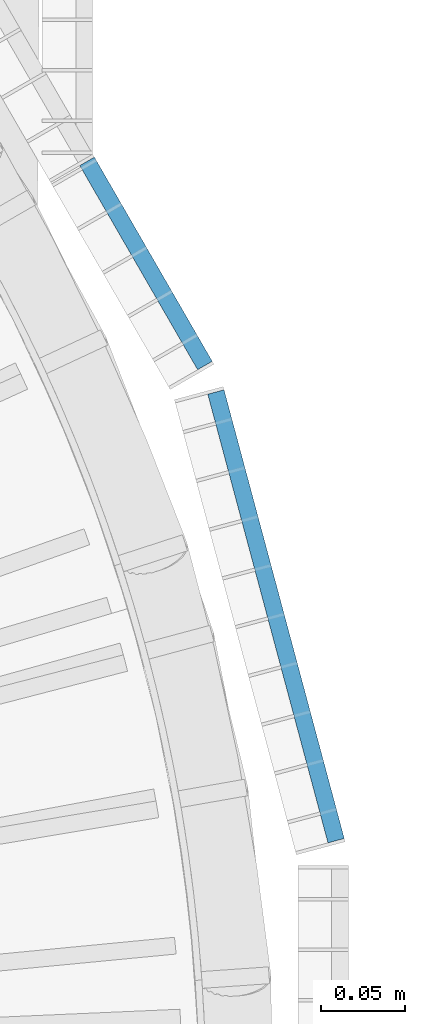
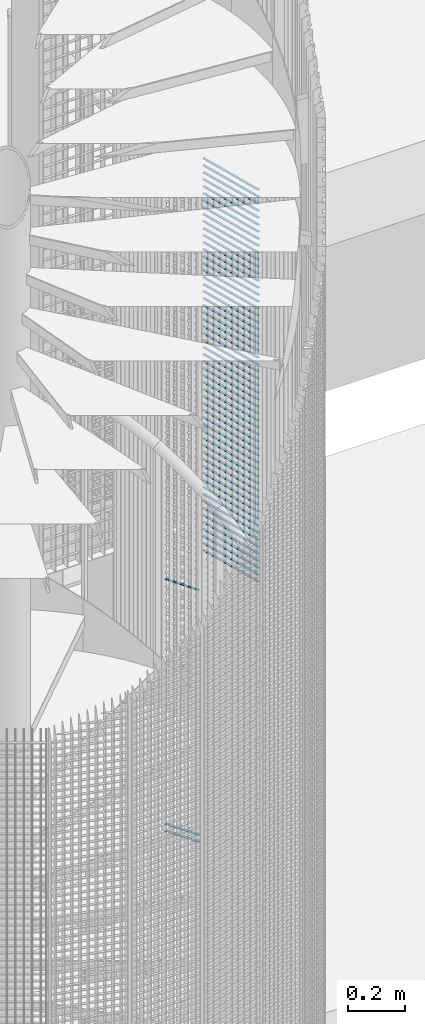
# One storey, part 276 of 1148: 60 beams, 2 elements without a shape of their own.
"""IFC2X3 building model written with IfcOpenShell, lengths in millimetres."""

from ifc_helpers import new_model, si_unit, frame, origin_with_axes, origin_2d_with_axis, place, context, subcontext, project, spatial, rectangle, extrude, material, type_object, element, aggregate, save


model = new_model("IFC2X3")

# Units and contexts
model_context = context("Model", 3, precision=1e-05, world=origin_with_axes())
body_context = subcontext(model_context, "Body", "Model", "MODEL_VIEW")
ifc_project = project(units=[si_unit("LENGTHUNIT", "METRE", prefix="MILLI"), si_unit("AREAUNIT", "SQUARE_METRE"), si_unit("VOLUMEUNIT", "CUBIC_METRE"), si_unit("MASSUNIT", "GRAM", prefix="KILO"), si_unit("TIMEUNIT", "SECOND"), si_unit("PLANEANGLEUNIT", "RADIAN"), si_unit("SOLIDANGLEUNIT", "STERADIAN"), si_unit("THERMODYNAMICTEMPERATUREUNIT", "DEGREE_CELSIUS"), si_unit("LUMINOUSINTENSITYUNIT", "LUMEN")], contexts=[model_context])

# Site, building, storey
site_placement = place(None, origin_with_axes())
site = spatial("IfcSite", under=ifc_project, at=site_placement, Name="Undefined", CompositionType="ELEMENT")
building_placement = place(site_placement, origin_with_axes())
building = spatial("IfcBuilding", under=site, at=building_placement, Name="Undefined", CompositionType="ELEMENT")
storey_placement = place(building_placement, origin_with_axes())
storey = spatial("IfcBuildingStorey", under=building, at=storey_placement, Name="Undefined", CompositionType="ELEMENT", Elevation=0.0)

# Assembly, beams
assembly_1_placement = place(storey_placement, origin_with_axes())
assembly_1 = element("IfcElementAssembly", 1, at=assembly_1_placement, inside=storey, Name="BORDURE", AssemblyPlace="NOTDEFINED", PredefinedType="NOTDEFINED")
ifc_material = material(Name="STEEL/S235JR")
beam_type = type_object("IfcBeamType", Name="PL2*10", PredefinedType="NOTDEFINED")
beam_1_placement = place(assembly_1_placement, frame((1033.2999428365, 437.231999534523, 9060.0), z_axis=(0.866030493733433, 0.499991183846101, 0.0), x_axis=(-0.499991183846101, 0.866030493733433, 0.0)))
beam_1 = element("IfcBeam", 2, at=beam_1_placement, type_object=beam_type, material=ifc_material, Name="ENTRETOISE", context=body_context, shape_type="SweptSolid", body=[
    extrude(rectangle(XDim=2.0, YDim=10.0, at=origin_2d_with_axis()), frame((140.102470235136, 0.0, 0.0), z_axis=(-1.0, 0.0, 0.0), x_axis=(0.0, -1.0, 0.0)), (0.0, 0.0, 1.0), 140.1),
])
beam_2_placement = place(assembly_1_placement, frame((1033.29994283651, 437.23199953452, 10110.0), z_axis=(0.866030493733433, 0.499991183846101, 0.0), x_axis=(-0.499991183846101, 0.866030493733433, 0.0)))
beam_2 = element("IfcBeam", 3, at=beam_2_placement, type_object=beam_type, material=ifc_material, Name="ENTRETOISE", context=body_context, shape_type="SweptSolid", body=[
    extrude(rectangle(XDim=2.0, YDim=10.0, at=origin_2d_with_axis()), frame((140.102470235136, 0.0, 0.0), z_axis=(-1.0, 0.0, 0.0), x_axis=(0.0, -1.0, 0.0)), (0.0, 0.0, 1.0), 140.1),
])
beam_3_placement = place(assembly_1_placement, frame((1033.2999428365, 437.231999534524, 9030.0), z_axis=(0.866030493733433, 0.499991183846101, 0.0), x_axis=(-0.499991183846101, 0.866030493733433, 0.0)))
beam_3 = element("IfcBeam", 4, at=beam_3_placement, type_object=beam_type, material=ifc_material, Name="ENTRETOISE", context=body_context, shape_type="SweptSolid", body=[
    extrude(rectangle(XDim=2.0, YDim=10.0, at=origin_2d_with_axis()), frame((140.102470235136, 0.0, 0.0), z_axis=(-1.0, 0.0, 0.0), x_axis=(0.0, -1.0, 0.0)), (0.0, 0.0, 1.0), 140.1),
])
aggregate(assembly_1, [beam_1, beam_2, beam_3])

assembly_2_placement = place(storey_placement, origin_with_axes())
assembly_2 = element("IfcElementAssembly", 5, at=assembly_2_placement, inside=storey, Name="BORDURE", AssemblyPlace="NOTDEFINED", PredefinedType="NOTDEFINED")
beam_4_placement = place(assembly_2_placement, frame((1111.25508286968, 154.895926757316, 11970.0), z_axis=(0.965925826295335, 0.258819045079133, 0.0), x_axis=(-0.258819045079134, 0.965925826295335, 0.0)))
beam_4 = element("IfcBeam", 6, at=beam_4_placement, type_object=beam_type, material=ifc_material, Name="ENTRETOISE", context=body_context, shape_type="SweptSolid", body=[
    extrude(rectangle(XDim=2.0, YDim=10.0, at=origin_2d_with_axis()), frame((275.999999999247, 9.09494701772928e-13, 1.53210777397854e-14), z_axis=(-1.0, 0.0, 0.0), x_axis=(0.0, -1.0, 0.0)), (0.0, 0.0, 1.0), 276.0),
])
beam_5_placement = place(assembly_2_placement, frame((1111.25508286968, 154.895926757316, 11940.0), z_axis=(0.965925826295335, 0.258819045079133, 0.0), x_axis=(-0.258819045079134, 0.965925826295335, 0.0)))
beam_5 = element("IfcBeam", 7, at=beam_5_placement, type_object=beam_type, material=ifc_material, Name="ENTRETOISE", context=body_context, shape_type="SweptSolid", body=[
    extrude(rectangle(XDim=2.0, YDim=10.0, at=origin_2d_with_axis()), frame((275.999999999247, 9.09494701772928e-13, 1.53210777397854e-14), z_axis=(-1.0, 0.0, 0.0), x_axis=(0.0, -1.0, 0.0)), (0.0, 0.0, 1.0), 276.0),
])
beam_6_placement = place(assembly_2_placement, frame((1111.25508286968, 154.895926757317, 11910.0), z_axis=(0.965925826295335, 0.258819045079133, 0.0), x_axis=(-0.258819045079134, 0.965925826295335, 0.0)))
beam_6 = element("IfcBeam", 8, at=beam_6_placement, type_object=beam_type, material=ifc_material, Name="ENTRETOISE", context=body_context, shape_type="SweptSolid", body=[
    extrude(rectangle(XDim=2.0, YDim=10.0, at=origin_2d_with_axis()), frame((275.999999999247, 9.09494701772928e-13, 1.53210777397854e-14), z_axis=(-1.0, 0.0, 0.0), x_axis=(0.0, -1.0, 0.0)), (0.0, 0.0, 1.0), 276.0),
])
beam_7_placement = place(assembly_2_placement, frame((1111.25508286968, 154.895926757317, 11880.0), z_axis=(0.965925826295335, 0.258819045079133, 0.0), x_axis=(-0.258819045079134, 0.965925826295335, 0.0)))
beam_7 = element("IfcBeam", 9, at=beam_7_placement, type_object=beam_type, material=ifc_material, Name="ENTRETOISE", context=body_context, shape_type="SweptSolid", body=[
    extrude(rectangle(XDim=2.0, YDim=10.0, at=origin_2d_with_axis()), frame((275.999999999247, 9.09494701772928e-13, 1.53210777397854e-14), z_axis=(-1.0, 0.0, 0.0), x_axis=(0.0, -1.0, 0.0)), (0.0, 0.0, 1.0), 276.0),
])
beam_8_placement = place(assembly_2_placement, frame((1111.25508286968, 154.895926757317, 11850.0), z_axis=(0.965925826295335, 0.258819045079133, 0.0), x_axis=(-0.258819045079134, 0.965925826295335, 0.0)))
beam_8 = element("IfcBeam", 10, at=beam_8_placement, type_object=beam_type, material=ifc_material, Name="ENTRETOISE", context=body_context, shape_type="SweptSolid", body=[
    extrude(rectangle(XDim=2.0, YDim=10.0, at=origin_2d_with_axis()), frame((275.999999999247, 9.09494701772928e-13, 1.53210777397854e-14), z_axis=(-1.0, 0.0, 0.0), x_axis=(0.0, -1.0, 0.0)), (0.0, 0.0, 1.0), 276.0),
])
beam_9_placement = place(assembly_2_placement, frame((1111.25508286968, 154.895926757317, 11820.0), z_axis=(0.965925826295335, 0.258819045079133, 0.0), x_axis=(-0.258819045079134, 0.965925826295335, 0.0)))
beam_9 = element("IfcBeam", 11, at=beam_9_placement, type_object=beam_type, material=ifc_material, Name="ENTRETOISE", context=body_context, shape_type="SweptSolid", body=[
    extrude(rectangle(XDim=2.0, YDim=10.0, at=origin_2d_with_axis()), frame((275.999999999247, 9.09494701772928e-13, 1.53210777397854e-14), z_axis=(-1.0, 0.0, 0.0), x_axis=(0.0, -1.0, 0.0)), (0.0, 0.0, 1.0), 276.0),
])
beam_10_placement = place(assembly_2_placement, frame((1111.25508286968, 154.895926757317, 11790.0), z_axis=(0.965925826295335, 0.258819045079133, 0.0), x_axis=(-0.258819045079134, 0.965925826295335, 0.0)))
beam_10 = element("IfcBeam", 12, at=beam_10_placement, type_object=beam_type, material=ifc_material, Name="ENTRETOISE", context=body_context, shape_type="SweptSolid", body=[
    extrude(rectangle(XDim=2.0, YDim=10.0, at=origin_2d_with_axis()), frame((275.999999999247, 9.09494701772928e-13, 1.53210777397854e-14), z_axis=(-1.0, 0.0, 0.0), x_axis=(0.0, -1.0, 0.0)), (0.0, 0.0, 1.0), 276.0),
])
beam_11_placement = place(assembly_2_placement, frame((1111.25508286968, 154.895926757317, 11760.0), z_axis=(0.965925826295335, 0.258819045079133, 0.0), x_axis=(-0.258819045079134, 0.965925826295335, 0.0)))
beam_11 = element("IfcBeam", 13, at=beam_11_placement, type_object=beam_type, material=ifc_material, Name="ENTRETOISE", context=body_context, shape_type="SweptSolid", body=[
    extrude(rectangle(XDim=2.0, YDim=10.0, at=origin_2d_with_axis()), frame((275.999999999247, 9.09494701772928e-13, 1.53210777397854e-14), z_axis=(-1.0, 0.0, 0.0), x_axis=(0.0, -1.0, 0.0)), (0.0, 0.0, 1.0), 276.0),
])
beam_12_placement = place(assembly_2_placement, frame((1111.25508286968, 154.895926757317, 11730.0), z_axis=(0.965925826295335, 0.258819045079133, 0.0), x_axis=(-0.258819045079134, 0.965925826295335, 0.0)))
beam_12 = element("IfcBeam", 14, at=beam_12_placement, type_object=beam_type, material=ifc_material, Name="ENTRETOISE", context=body_context, shape_type="SweptSolid", body=[
    extrude(rectangle(XDim=2.0, YDim=10.0, at=origin_2d_with_axis()), frame((275.999999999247, 9.09494701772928e-13, 1.53210777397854e-14), z_axis=(-1.0, 0.0, 0.0), x_axis=(0.0, -1.0, 0.0)), (0.0, 0.0, 1.0), 276.0),
])
beam_13_placement = place(assembly_2_placement, frame((1111.25508286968, 154.895926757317, 11700.0), z_axis=(0.965925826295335, 0.258819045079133, 0.0), x_axis=(-0.258819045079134, 0.965925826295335, 0.0)))
beam_13 = element("IfcBeam", 15, at=beam_13_placement, type_object=beam_type, material=ifc_material, Name="ENTRETOISE", context=body_context, shape_type="SweptSolid", body=[
    extrude(rectangle(XDim=2.0, YDim=10.0, at=origin_2d_with_axis()), frame((275.999999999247, 9.09494701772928e-13, 1.53210777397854e-14), z_axis=(-1.0, 0.0, 0.0), x_axis=(0.0, -1.0, 0.0)), (0.0, 0.0, 1.0), 276.0),
])
beam_14_placement = place(assembly_2_placement, frame((1111.25508286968, 154.895926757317, 11670.0), z_axis=(0.965925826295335, 0.258819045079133, 0.0), x_axis=(-0.258819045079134, 0.965925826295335, 0.0)))
beam_14 = element("IfcBeam", 16, at=beam_14_placement, type_object=beam_type, material=ifc_material, Name="ENTRETOISE", context=body_context, shape_type="SweptSolid", body=[
    extrude(rectangle(XDim=2.0, YDim=10.0, at=origin_2d_with_axis()), frame((275.999999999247, 9.09494701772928e-13, 1.53210777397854e-14), z_axis=(-1.0, 0.0, 0.0), x_axis=(0.0, -1.0, 0.0)), (0.0, 0.0, 1.0), 276.0),
])
beam_15_placement = place(assembly_2_placement, frame((1111.25508286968, 154.895926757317, 11640.0), z_axis=(0.965925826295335, 0.258819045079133, 0.0), x_axis=(-0.258819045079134, 0.965925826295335, 0.0)))
beam_15 = element("IfcBeam", 17, at=beam_15_placement, type_object=beam_type, material=ifc_material, Name="ENTRETOISE", context=body_context, shape_type="SweptSolid", body=[
    extrude(rectangle(XDim=2.0, YDim=10.0, at=origin_2d_with_axis()), frame((275.999999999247, 9.09494701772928e-13, 1.53210777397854e-14), z_axis=(-1.0, 0.0, 0.0), x_axis=(0.0, -1.0, 0.0)), (0.0, 0.0, 1.0), 276.0),
])
beam_16_placement = place(assembly_2_placement, frame((1111.25508286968, 154.895926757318, 11610.0), z_axis=(0.965925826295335, 0.258819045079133, 0.0), x_axis=(-0.258819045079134, 0.965925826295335, 0.0)))
beam_16 = element("IfcBeam", 18, at=beam_16_placement, type_object=beam_type, material=ifc_material, Name="ENTRETOISE", context=body_context, shape_type="SweptSolid", body=[
    extrude(rectangle(XDim=2.0, YDim=10.0, at=origin_2d_with_axis()), frame((275.999999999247, 9.09494701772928e-13, 1.53210777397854e-14), z_axis=(-1.0, 0.0, 0.0), x_axis=(0.0, -1.0, 0.0)), (0.0, 0.0, 1.0), 276.0),
])
beam_17_placement = place(assembly_2_placement, frame((1111.25508286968, 154.895926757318, 11580.0), z_axis=(0.965925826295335, 0.258819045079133, 0.0), x_axis=(-0.258819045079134, 0.965925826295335, 0.0)))
beam_17 = element("IfcBeam", 19, at=beam_17_placement, type_object=beam_type, material=ifc_material, Name="ENTRETOISE", context=body_context, shape_type="SweptSolid", body=[
    extrude(rectangle(XDim=2.0, YDim=10.0, at=origin_2d_with_axis()), frame((275.999999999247, 9.09494701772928e-13, 1.53210777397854e-14), z_axis=(-1.0, 0.0, 0.0), x_axis=(0.0, -1.0, 0.0)), (0.0, 0.0, 1.0), 276.0),
])
beam_18_placement = place(assembly_2_placement, frame((1111.25508286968, 154.895926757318, 11550.0), z_axis=(0.965925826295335, 0.258819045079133, 0.0), x_axis=(-0.258819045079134, 0.965925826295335, 0.0)))
beam_18 = element("IfcBeam", 20, at=beam_18_placement, type_object=beam_type, material=ifc_material, Name="ENTRETOISE", context=body_context, shape_type="SweptSolid", body=[
    extrude(rectangle(XDim=2.0, YDim=10.0, at=origin_2d_with_axis()), frame((275.999999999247, 9.09494701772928e-13, 1.53210777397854e-14), z_axis=(-1.0, 0.0, 0.0), x_axis=(0.0, -1.0, 0.0)), (0.0, 0.0, 1.0), 276.0),
])
beam_19_placement = place(assembly_2_placement, frame((1111.25508286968, 154.895926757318, 11520.0), z_axis=(0.965925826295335, 0.258819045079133, 0.0), x_axis=(-0.258819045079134, 0.965925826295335, 0.0)))
beam_19 = element("IfcBeam", 21, at=beam_19_placement, type_object=beam_type, material=ifc_material, Name="ENTRETOISE", context=body_context, shape_type="SweptSolid", body=[
    extrude(rectangle(XDim=2.0, YDim=10.0, at=origin_2d_with_axis()), frame((275.999999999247, 9.09494701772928e-13, 1.53210777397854e-14), z_axis=(-1.0, 0.0, 0.0), x_axis=(0.0, -1.0, 0.0)), (0.0, 0.0, 1.0), 276.0),
])
beam_20_placement = place(assembly_2_placement, frame((1111.25508286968, 154.895926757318, 11490.0), z_axis=(0.965925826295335, 0.258819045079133, 0.0), x_axis=(-0.258819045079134, 0.965925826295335, 0.0)))
beam_20 = element("IfcBeam", 22, at=beam_20_placement, type_object=beam_type, material=ifc_material, Name="ENTRETOISE", context=body_context, shape_type="SweptSolid", body=[
    extrude(rectangle(XDim=2.0, YDim=10.0, at=origin_2d_with_axis()), frame((275.999999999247, 9.09494701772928e-13, 1.53210777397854e-14), z_axis=(-1.0, 0.0, 0.0), x_axis=(0.0, -1.0, 0.0)), (0.0, 0.0, 1.0), 276.0),
])
beam_21_placement = place(assembly_2_placement, frame((1111.25508286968, 154.895926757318, 11460.0), z_axis=(0.965925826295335, 0.258819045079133, 0.0), x_axis=(-0.258819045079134, 0.965925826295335, 0.0)))
beam_21 = element("IfcBeam", 23, at=beam_21_placement, type_object=beam_type, material=ifc_material, Name="ENTRETOISE", context=body_context, shape_type="SweptSolid", body=[
    extrude(rectangle(XDim=2.0, YDim=10.0, at=origin_2d_with_axis()), frame((275.999999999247, 9.09494701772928e-13, 1.53210777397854e-14), z_axis=(-1.0, 0.0, 0.0), x_axis=(0.0, -1.0, 0.0)), (0.0, 0.0, 1.0), 276.0),
])
beam_22_placement = place(assembly_2_placement, frame((1111.25508286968, 154.895926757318, 11430.0), z_axis=(0.965925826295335, 0.258819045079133, 0.0), x_axis=(-0.258819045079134, 0.965925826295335, 0.0)))
beam_22 = element("IfcBeam", 24, at=beam_22_placement, type_object=beam_type, material=ifc_material, Name="ENTRETOISE", context=body_context, shape_type="SweptSolid", body=[
    extrude(rectangle(XDim=2.0, YDim=10.0, at=origin_2d_with_axis()), frame((275.999999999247, 9.09494701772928e-13, 1.53210777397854e-14), z_axis=(-1.0, 0.0, 0.0), x_axis=(0.0, -1.0, 0.0)), (0.0, 0.0, 1.0), 276.0),
])
beam_23_placement = place(assembly_2_placement, frame((1111.25508286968, 154.895926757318, 11400.0), z_axis=(0.965925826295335, 0.258819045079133, 0.0), x_axis=(-0.258819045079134, 0.965925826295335, 0.0)))
beam_23 = element("IfcBeam", 25, at=beam_23_placement, type_object=beam_type, material=ifc_material, Name="ENTRETOISE", context=body_context, shape_type="SweptSolid", body=[
    extrude(rectangle(XDim=2.0, YDim=10.0, at=origin_2d_with_axis()), frame((275.999999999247, 9.09494701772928e-13, 1.53210777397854e-14), z_axis=(-1.0, 0.0, 0.0), x_axis=(0.0, -1.0, 0.0)), (0.0, 0.0, 1.0), 276.0),
])
beam_24_placement = place(assembly_2_placement, frame((1111.25508286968, 154.895926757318, 11370.0), z_axis=(0.965925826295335, 0.258819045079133, 0.0), x_axis=(-0.258819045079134, 0.965925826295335, 0.0)))
beam_24 = element("IfcBeam", 26, at=beam_24_placement, type_object=beam_type, material=ifc_material, Name="ENTRETOISE", context=body_context, shape_type="SweptSolid", body=[
    extrude(rectangle(XDim=2.0, YDim=10.0, at=origin_2d_with_axis()), frame((275.999999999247, 9.09494701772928e-13, 1.53210777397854e-14), z_axis=(-1.0, 0.0, 0.0), x_axis=(0.0, -1.0, 0.0)), (0.0, 0.0, 1.0), 276.0),
])
beam_25_placement = place(assembly_2_placement, frame((1111.25508286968, 154.895926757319, 11340.0), z_axis=(0.965925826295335, 0.258819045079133, 0.0), x_axis=(-0.258819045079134, 0.965925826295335, 0.0)))
beam_25 = element("IfcBeam", 27, at=beam_25_placement, type_object=beam_type, material=ifc_material, Name="ENTRETOISE", context=body_context, shape_type="SweptSolid", body=[
    extrude(rectangle(XDim=2.0, YDim=10.0, at=origin_2d_with_axis()), frame((275.999999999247, 9.09494701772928e-13, 1.53210777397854e-14), z_axis=(-1.0, 0.0, 0.0), x_axis=(0.0, -1.0, 0.0)), (0.0, 0.0, 1.0), 276.0),
])
beam_26_placement = place(assembly_2_placement, frame((1111.25508286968, 154.895926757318, 11310.0), z_axis=(0.965925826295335, 0.258819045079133, 0.0), x_axis=(-0.258819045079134, 0.965925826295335, 0.0)))
beam_26 = element("IfcBeam", 28, at=beam_26_placement, type_object=beam_type, material=ifc_material, Name="ENTRETOISE", context=body_context, shape_type="SweptSolid", body=[
    extrude(rectangle(XDim=2.0, YDim=10.0, at=origin_2d_with_axis()), frame((275.999999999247, 9.09494701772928e-13, 1.53210777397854e-14), z_axis=(-1.0, 0.0, 0.0), x_axis=(0.0, -1.0, 0.0)), (0.0, 0.0, 1.0), 276.0),
])
beam_27_placement = place(assembly_2_placement, frame((1111.25508286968, 154.895926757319, 11280.0), z_axis=(0.965925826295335, 0.258819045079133, 0.0), x_axis=(-0.258819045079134, 0.965925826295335, 0.0)))
beam_27 = element("IfcBeam", 29, at=beam_27_placement, type_object=beam_type, material=ifc_material, Name="ENTRETOISE", context=body_context, shape_type="SweptSolid", body=[
    extrude(rectangle(XDim=2.0, YDim=10.0, at=origin_2d_with_axis()), frame((275.999999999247, 9.09494701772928e-13, 1.53210777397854e-14), z_axis=(-1.0, 0.0, 0.0), x_axis=(0.0, -1.0, 0.0)), (0.0, 0.0, 1.0), 276.0),
])
beam_28_placement = place(assembly_2_placement, frame((1111.25508286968, 154.895926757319, 11250.0), z_axis=(0.965925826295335, 0.258819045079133, 0.0), x_axis=(-0.258819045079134, 0.965925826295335, 0.0)))
beam_28 = element("IfcBeam", 30, at=beam_28_placement, type_object=beam_type, material=ifc_material, Name="ENTRETOISE", context=body_context, shape_type="SweptSolid", body=[
    extrude(rectangle(XDim=2.0, YDim=10.0, at=origin_2d_with_axis()), frame((275.999999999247, 9.09494701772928e-13, 1.53210777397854e-14), z_axis=(-1.0, 0.0, 0.0), x_axis=(0.0, -1.0, 0.0)), (0.0, 0.0, 1.0), 276.0),
])
beam_29_placement = place(assembly_2_placement, frame((1111.25508286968, 154.895926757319, 11220.0), z_axis=(0.965925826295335, 0.258819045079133, 0.0), x_axis=(-0.258819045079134, 0.965925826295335, 0.0)))
beam_29 = element("IfcBeam", 31, at=beam_29_placement, type_object=beam_type, material=ifc_material, Name="ENTRETOISE", context=body_context, shape_type="SweptSolid", body=[
    extrude(rectangle(XDim=2.0, YDim=10.0, at=origin_2d_with_axis()), frame((275.999999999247, 9.09494701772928e-13, 1.53210777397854e-14), z_axis=(-1.0, 0.0, 0.0), x_axis=(0.0, -1.0, 0.0)), (0.0, 0.0, 1.0), 276.0),
])
beam_30_placement = place(assembly_2_placement, frame((1111.25508286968, 154.895926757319, 11190.0), z_axis=(0.965925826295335, 0.258819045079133, 0.0), x_axis=(-0.258819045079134, 0.965925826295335, 0.0)))
beam_30 = element("IfcBeam", 32, at=beam_30_placement, type_object=beam_type, material=ifc_material, Name="ENTRETOISE", context=body_context, shape_type="SweptSolid", body=[
    extrude(rectangle(XDim=2.0, YDim=10.0, at=origin_2d_with_axis()), frame((275.999999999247, 9.09494701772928e-13, 1.53210777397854e-14), z_axis=(-1.0, 0.0, 0.0), x_axis=(0.0, -1.0, 0.0)), (0.0, 0.0, 1.0), 276.0),
])
beam_31_placement = place(assembly_2_placement, frame((1111.25508286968, 154.895926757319, 11160.0), z_axis=(0.965925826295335, 0.258819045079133, 0.0), x_axis=(-0.258819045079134, 0.965925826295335, 0.0)))
beam_31 = element("IfcBeam", 33, at=beam_31_placement, type_object=beam_type, material=ifc_material, Name="ENTRETOISE", context=body_context, shape_type="SweptSolid", body=[
    extrude(rectangle(XDim=2.0, YDim=10.0, at=origin_2d_with_axis()), frame((275.999999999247, 9.09494701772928e-13, 1.53210777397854e-14), z_axis=(-1.0, 0.0, 0.0), x_axis=(0.0, -1.0, 0.0)), (0.0, 0.0, 1.0), 276.0),
])
beam_32_placement = place(assembly_2_placement, frame((1111.25508286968, 154.895926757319, 11130.0), z_axis=(0.965925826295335, 0.258819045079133, 0.0), x_axis=(-0.258819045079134, 0.965925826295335, 0.0)))
beam_32 = element("IfcBeam", 34, at=beam_32_placement, type_object=beam_type, material=ifc_material, Name="ENTRETOISE", context=body_context, shape_type="SweptSolid", body=[
    extrude(rectangle(XDim=2.0, YDim=10.0, at=origin_2d_with_axis()), frame((275.999999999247, 9.09494701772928e-13, 1.53210777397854e-14), z_axis=(-1.0, 0.0, 0.0), x_axis=(0.0, -1.0, 0.0)), (0.0, 0.0, 1.0), 276.0),
])
beam_33_placement = place(assembly_2_placement, frame((1111.25508286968, 154.895926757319, 11100.0), z_axis=(0.965925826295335, 0.258819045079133, 0.0), x_axis=(-0.258819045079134, 0.965925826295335, 0.0)))
beam_33 = element("IfcBeam", 35, at=beam_33_placement, type_object=beam_type, material=ifc_material, Name="ENTRETOISE", context=body_context, shape_type="SweptSolid", body=[
    extrude(rectangle(XDim=2.0, YDim=10.0, at=origin_2d_with_axis()), frame((275.999999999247, 9.09494701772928e-13, 1.53210777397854e-14), z_axis=(-1.0, 0.0, 0.0), x_axis=(0.0, -1.0, 0.0)), (0.0, 0.0, 1.0), 276.0),
])
beam_34_placement = place(assembly_2_placement, frame((1111.25508286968, 154.895926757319, 11070.0), z_axis=(0.965925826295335, 0.258819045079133, 0.0), x_axis=(-0.258819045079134, 0.965925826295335, 0.0)))
beam_34 = element("IfcBeam", 36, at=beam_34_placement, type_object=beam_type, material=ifc_material, Name="ENTRETOISE", context=body_context, shape_type="SweptSolid", body=[
    extrude(rectangle(XDim=2.0, YDim=10.0, at=origin_2d_with_axis()), frame((275.999999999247, 9.09494701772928e-13, 1.53210777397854e-14), z_axis=(-1.0, 0.0, 0.0), x_axis=(0.0, -1.0, 0.0)), (0.0, 0.0, 1.0), 276.0),
])
beam_35_placement = place(assembly_2_placement, frame((1111.25508286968, 154.89592675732, 11040.0), z_axis=(0.965925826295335, 0.258819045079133, 0.0), x_axis=(-0.258819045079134, 0.965925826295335, 0.0)))
beam_35 = element("IfcBeam", 37, at=beam_35_placement, type_object=beam_type, material=ifc_material, Name="ENTRETOISE", context=body_context, shape_type="SweptSolid", body=[
    extrude(rectangle(XDim=2.0, YDim=10.0, at=origin_2d_with_axis()), frame((275.999999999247, 9.09494701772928e-13, 1.53210777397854e-14), z_axis=(-1.0, 0.0, 0.0), x_axis=(0.0, -1.0, 0.0)), (0.0, 0.0, 1.0), 276.0),
])
beam_36_placement = place(assembly_2_placement, frame((1111.25508286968, 154.89592675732, 11010.0), z_axis=(0.965925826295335, 0.258819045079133, 0.0), x_axis=(-0.258819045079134, 0.965925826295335, 0.0)))
beam_36 = element("IfcBeam", 38, at=beam_36_placement, type_object=beam_type, material=ifc_material, Name="ENTRETOISE", context=body_context, shape_type="SweptSolid", body=[
    extrude(rectangle(XDim=2.0, YDim=10.0, at=origin_2d_with_axis()), frame((275.999999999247, 9.09494701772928e-13, 1.53210777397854e-14), z_axis=(-1.0, 0.0, 0.0), x_axis=(0.0, -1.0, 0.0)), (0.0, 0.0, 1.0), 276.0),
])
beam_37_placement = place(assembly_2_placement, frame((1111.25508286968, 154.89592675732, 10980.0), z_axis=(0.965925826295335, 0.258819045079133, 0.0), x_axis=(-0.258819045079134, 0.965925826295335, 0.0)))
beam_37 = element("IfcBeam", 39, at=beam_37_placement, type_object=beam_type, material=ifc_material, Name="ENTRETOISE", context=body_context, shape_type="SweptSolid", body=[
    extrude(rectangle(XDim=2.0, YDim=10.0, at=origin_2d_with_axis()), frame((275.999999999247, 9.09494701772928e-13, 1.53210777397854e-14), z_axis=(-1.0, 0.0, 0.0), x_axis=(0.0, -1.0, 0.0)), (0.0, 0.0, 1.0), 276.0),
])
beam_38_placement = place(assembly_2_placement, frame((1111.25508286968, 154.89592675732, 10950.0), z_axis=(0.965925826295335, 0.258819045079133, 0.0), x_axis=(-0.258819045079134, 0.965925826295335, 0.0)))
beam_38 = element("IfcBeam", 40, at=beam_38_placement, type_object=beam_type, material=ifc_material, Name="ENTRETOISE", context=body_context, shape_type="SweptSolid", body=[
    extrude(rectangle(XDim=2.0, YDim=10.0, at=origin_2d_with_axis()), frame((275.999999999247, 9.09494701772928e-13, 1.53210777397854e-14), z_axis=(-1.0, 0.0, 0.0), x_axis=(0.0, -1.0, 0.0)), (0.0, 0.0, 1.0), 276.0),
])
beam_39_placement = place(assembly_2_placement, frame((1111.25508286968, 154.89592675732, 10920.0), z_axis=(0.965925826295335, 0.258819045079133, 0.0), x_axis=(-0.258819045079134, 0.965925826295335, 0.0)))
beam_39 = element("IfcBeam", 41, at=beam_39_placement, type_object=beam_type, material=ifc_material, Name="ENTRETOISE", context=body_context, shape_type="SweptSolid", body=[
    extrude(rectangle(XDim=2.0, YDim=10.0, at=origin_2d_with_axis()), frame((275.999999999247, 9.09494701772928e-13, 1.53210777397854e-14), z_axis=(-1.0, 0.0, 0.0), x_axis=(0.0, -1.0, 0.0)), (0.0, 0.0, 1.0), 276.0),
])
beam_40_placement = place(assembly_2_placement, frame((1111.25508286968, 154.89592675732, 10890.0), z_axis=(0.965925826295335, 0.258819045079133, 0.0), x_axis=(-0.258819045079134, 0.965925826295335, 0.0)))
beam_40 = element("IfcBeam", 42, at=beam_40_placement, type_object=beam_type, material=ifc_material, Name="ENTRETOISE", context=body_context, shape_type="SweptSolid", body=[
    extrude(rectangle(XDim=2.0, YDim=10.0, at=origin_2d_with_axis()), frame((275.999999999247, 9.09494701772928e-13, 1.53210777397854e-14), z_axis=(-1.0, 0.0, 0.0), x_axis=(0.0, -1.0, 0.0)), (0.0, 0.0, 1.0), 276.0),
])
beam_41_placement = place(assembly_2_placement, frame((1111.25508286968, 154.89592675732, 10860.0), z_axis=(0.965925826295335, 0.258819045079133, 0.0), x_axis=(-0.258819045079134, 0.965925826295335, 0.0)))
beam_41 = element("IfcBeam", 43, at=beam_41_placement, type_object=beam_type, material=ifc_material, Name="ENTRETOISE", context=body_context, shape_type="SweptSolid", body=[
    extrude(rectangle(XDim=2.0, YDim=10.0, at=origin_2d_with_axis()), frame((275.999999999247, 9.09494701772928e-13, 1.53210777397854e-14), z_axis=(-1.0, 0.0, 0.0), x_axis=(0.0, -1.0, 0.0)), (0.0, 0.0, 1.0), 276.0),
])
beam_42_placement = place(assembly_2_placement, frame((1111.25508286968, 154.89592675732, 10830.0), z_axis=(0.965925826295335, 0.258819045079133, 0.0), x_axis=(-0.258819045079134, 0.965925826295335, 0.0)))
beam_42 = element("IfcBeam", 44, at=beam_42_placement, type_object=beam_type, material=ifc_material, Name="ENTRETOISE", context=body_context, shape_type="SweptSolid", body=[
    extrude(rectangle(XDim=2.0, YDim=10.0, at=origin_2d_with_axis()), frame((275.999999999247, 9.09494701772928e-13, 1.53210777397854e-14), z_axis=(-1.0, 0.0, 0.0), x_axis=(0.0, -1.0, 0.0)), (0.0, 0.0, 1.0), 276.0),
])
beam_43_placement = place(assembly_2_placement, frame((1111.25508286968, 154.89592675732, 10800.0), z_axis=(0.965925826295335, 0.258819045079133, 0.0), x_axis=(-0.258819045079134, 0.965925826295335, 0.0)))
beam_43 = element("IfcBeam", 45, at=beam_43_placement, type_object=beam_type, material=ifc_material, Name="ENTRETOISE", context=body_context, shape_type="SweptSolid", body=[
    extrude(rectangle(XDim=2.0, YDim=10.0, at=origin_2d_with_axis()), frame((275.999999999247, 9.09494701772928e-13, 1.53210777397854e-14), z_axis=(-1.0, 0.0, 0.0), x_axis=(0.0, -1.0, 0.0)), (0.0, 0.0, 1.0), 276.0),
])
beam_44_placement = place(assembly_2_placement, frame((1111.25508286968, 154.89592675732, 10770.0), z_axis=(0.965925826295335, 0.258819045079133, 0.0), x_axis=(-0.258819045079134, 0.965925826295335, 0.0)))
beam_44 = element("IfcBeam", 46, at=beam_44_placement, type_object=beam_type, material=ifc_material, Name="ENTRETOISE", context=body_context, shape_type="SweptSolid", body=[
    extrude(rectangle(XDim=2.0, YDim=10.0, at=origin_2d_with_axis()), frame((275.999999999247, 9.09494701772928e-13, 1.53210777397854e-14), z_axis=(-1.0, 0.0, 0.0), x_axis=(0.0, -1.0, 0.0)), (0.0, 0.0, 1.0), 276.0),
])
beam_45_placement = place(assembly_2_placement, frame((1111.25508286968, 154.89592675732, 10740.0), z_axis=(0.965925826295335, 0.258819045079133, 0.0), x_axis=(-0.258819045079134, 0.965925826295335, 0.0)))
beam_45 = element("IfcBeam", 47, at=beam_45_placement, type_object=beam_type, material=ifc_material, Name="ENTRETOISE", context=body_context, shape_type="SweptSolid", body=[
    extrude(rectangle(XDim=2.0, YDim=10.0, at=origin_2d_with_axis()), frame((275.999999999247, 9.09494701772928e-13, 1.53210777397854e-14), z_axis=(-1.0, 0.0, 0.0), x_axis=(0.0, -1.0, 0.0)), (0.0, 0.0, 1.0), 276.0),
])
beam_46_placement = place(assembly_2_placement, frame((1111.25508286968, 154.895926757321, 10710.0), z_axis=(0.965925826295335, 0.258819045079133, 0.0), x_axis=(-0.258819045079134, 0.965925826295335, 0.0)))
beam_46 = element("IfcBeam", 48, at=beam_46_placement, type_object=beam_type, material=ifc_material, Name="ENTRETOISE", context=body_context, shape_type="SweptSolid", body=[
    extrude(rectangle(XDim=2.0, YDim=10.0, at=origin_2d_with_axis()), frame((275.999999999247, 9.09494701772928e-13, 1.53210777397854e-14), z_axis=(-1.0, 0.0, 0.0), x_axis=(0.0, -1.0, 0.0)), (0.0, 0.0, 1.0), 276.0),
])
beam_47_placement = place(assembly_2_placement, frame((1111.25508286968, 154.895926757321, 10680.0), z_axis=(0.965925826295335, 0.258819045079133, 0.0), x_axis=(-0.258819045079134, 0.965925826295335, 0.0)))
beam_47 = element("IfcBeam", 49, at=beam_47_placement, type_object=beam_type, material=ifc_material, Name="ENTRETOISE", context=body_context, shape_type="SweptSolid", body=[
    extrude(rectangle(XDim=2.0, YDim=10.0, at=origin_2d_with_axis()), frame((275.999999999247, 9.09494701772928e-13, 1.53210777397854e-14), z_axis=(-1.0, 0.0, 0.0), x_axis=(0.0, -1.0, 0.0)), (0.0, 0.0, 1.0), 276.0),
])
beam_48_placement = place(assembly_2_placement, frame((1111.25508286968, 154.895926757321, 10650.0), z_axis=(0.965925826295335, 0.258819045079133, 0.0), x_axis=(-0.258819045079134, 0.965925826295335, 0.0)))
beam_48 = element("IfcBeam", 50, at=beam_48_placement, type_object=beam_type, material=ifc_material, Name="ENTRETOISE", context=body_context, shape_type="SweptSolid", body=[
    extrude(rectangle(XDim=2.0, YDim=10.0, at=origin_2d_with_axis()), frame((275.999999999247, 9.09494701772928e-13, 1.53210777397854e-14), z_axis=(-1.0, 0.0, 0.0), x_axis=(0.0, -1.0, 0.0)), (0.0, 0.0, 1.0), 276.0),
])
beam_49_placement = place(assembly_2_placement, frame((1111.25508286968, 154.895926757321, 10620.0), z_axis=(0.965925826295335, 0.258819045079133, 0.0), x_axis=(-0.258819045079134, 0.965925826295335, 0.0)))
beam_49 = element("IfcBeam", 51, at=beam_49_placement, type_object=beam_type, material=ifc_material, Name="ENTRETOISE", context=body_context, shape_type="SweptSolid", body=[
    extrude(rectangle(XDim=2.0, YDim=10.0, at=origin_2d_with_axis()), frame((275.999999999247, 9.09494701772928e-13, 1.53210777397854e-14), z_axis=(-1.0, 0.0, 0.0), x_axis=(0.0, -1.0, 0.0)), (0.0, 0.0, 1.0), 276.0),
])
beam_50_placement = place(assembly_2_placement, frame((1111.25508286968, 154.895926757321, 10590.0), z_axis=(0.965925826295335, 0.258819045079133, 0.0), x_axis=(-0.258819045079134, 0.965925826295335, 0.0)))
beam_50 = element("IfcBeam", 52, at=beam_50_placement, type_object=beam_type, material=ifc_material, Name="ENTRETOISE", context=body_context, shape_type="SweptSolid", body=[
    extrude(rectangle(XDim=2.0, YDim=10.0, at=origin_2d_with_axis()), frame((275.999999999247, 9.09494701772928e-13, 1.53210777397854e-14), z_axis=(-1.0, 0.0, 0.0), x_axis=(0.0, -1.0, 0.0)), (0.0, 0.0, 1.0), 276.0),
])
beam_51_placement = place(assembly_2_placement, frame((1111.25508286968, 154.895926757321, 10560.0), z_axis=(0.965925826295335, 0.258819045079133, 0.0), x_axis=(-0.258819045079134, 0.965925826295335, 0.0)))
beam_51 = element("IfcBeam", 53, at=beam_51_placement, type_object=beam_type, material=ifc_material, Name="ENTRETOISE", context=body_context, shape_type="SweptSolid", body=[
    extrude(rectangle(XDim=2.0, YDim=10.0, at=origin_2d_with_axis()), frame((275.999999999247, 9.09494701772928e-13, 1.53210777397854e-14), z_axis=(-1.0, 0.0, 0.0), x_axis=(0.0, -1.0, 0.0)), (0.0, 0.0, 1.0), 276.0),
])
beam_52_placement = place(assembly_2_placement, frame((1111.25508286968, 154.895926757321, 10530.0), z_axis=(0.965925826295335, 0.258819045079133, 0.0), x_axis=(-0.258819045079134, 0.965925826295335, 0.0)))
beam_52 = element("IfcBeam", 54, at=beam_52_placement, type_object=beam_type, material=ifc_material, Name="ENTRETOISE", context=body_context, shape_type="SweptSolid", body=[
    extrude(rectangle(XDim=2.0, YDim=10.0, at=origin_2d_with_axis()), frame((275.999999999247, 9.09494701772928e-13, 1.53210777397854e-14), z_axis=(-1.0, 0.0, 0.0), x_axis=(0.0, -1.0, 0.0)), (0.0, 0.0, 1.0), 276.0),
])
beam_53_placement = place(assembly_2_placement, frame((1111.25508286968, 154.895926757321, 10500.0), z_axis=(0.965925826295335, 0.258819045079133, 0.0), x_axis=(-0.258819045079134, 0.965925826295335, 0.0)))
beam_53 = element("IfcBeam", 55, at=beam_53_placement, type_object=beam_type, material=ifc_material, Name="ENTRETOISE", context=body_context, shape_type="SweptSolid", body=[
    extrude(rectangle(XDim=2.0, YDim=10.0, at=origin_2d_with_axis()), frame((275.999999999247, 9.09494701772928e-13, 1.53210777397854e-14), z_axis=(-1.0, 0.0, 0.0), x_axis=(0.0, -1.0, 0.0)), (0.0, 0.0, 1.0), 276.0),
])
beam_54_placement = place(assembly_2_placement, frame((1111.25508286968, 154.895926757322, 10470.0), z_axis=(0.965925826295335, 0.258819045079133, 0.0), x_axis=(-0.258819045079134, 0.965925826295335, 0.0)))
beam_54 = element("IfcBeam", 56, at=beam_54_placement, type_object=beam_type, material=ifc_material, Name="ENTRETOISE", context=body_context, shape_type="SweptSolid", body=[
    extrude(rectangle(XDim=2.0, YDim=10.0, at=origin_2d_with_axis()), frame((275.999999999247, 9.09494701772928e-13, 1.53210777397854e-14), z_axis=(-1.0, 0.0, 0.0), x_axis=(0.0, -1.0, 0.0)), (0.0, 0.0, 1.0), 276.0),
])
beam_55_placement = place(assembly_2_placement, frame((1111.25508286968, 154.895926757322, 10440.0), z_axis=(0.965925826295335, 0.258819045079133, 0.0), x_axis=(-0.258819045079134, 0.965925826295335, 0.0)))
beam_55 = element("IfcBeam", 57, at=beam_55_placement, type_object=beam_type, material=ifc_material, Name="ENTRETOISE", context=body_context, shape_type="SweptSolid", body=[
    extrude(rectangle(XDim=2.0, YDim=10.0, at=origin_2d_with_axis()), frame((275.999999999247, 9.09494701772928e-13, 1.53210777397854e-14), z_axis=(-1.0, 0.0, 0.0), x_axis=(0.0, -1.0, 0.0)), (0.0, 0.0, 1.0), 276.0),
])
beam_56_placement = place(assembly_2_placement, frame((1111.25508286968, 154.895926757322, 10410.0), z_axis=(0.965925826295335, 0.258819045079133, 0.0), x_axis=(-0.258819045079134, 0.965925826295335, 0.0)))
beam_56 = element("IfcBeam", 58, at=beam_56_placement, type_object=beam_type, material=ifc_material, Name="ENTRETOISE", context=body_context, shape_type="SweptSolid", body=[
    extrude(rectangle(XDim=2.0, YDim=10.0, at=origin_2d_with_axis()), frame((275.999999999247, 9.09494701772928e-13, 1.53210777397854e-14), z_axis=(-1.0, 0.0, 0.0), x_axis=(0.0, -1.0, 0.0)), (0.0, 0.0, 1.0), 276.0),
])
beam_57_placement = place(assembly_2_placement, frame((1111.25508286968, 154.895926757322, 10380.0), z_axis=(0.965925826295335, 0.258819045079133, 0.0), x_axis=(-0.258819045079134, 0.965925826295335, 0.0)))
beam_57 = element("IfcBeam", 59, at=beam_57_placement, type_object=beam_type, material=ifc_material, Name="ENTRETOISE", context=body_context, shape_type="SweptSolid", body=[
    extrude(rectangle(XDim=2.0, YDim=10.0, at=origin_2d_with_axis()), frame((275.999999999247, 9.09494701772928e-13, 1.53210777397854e-14), z_axis=(-1.0, 0.0, 0.0), x_axis=(0.0, -1.0, 0.0)), (0.0, 0.0, 1.0), 276.0),
])
beam_58_placement = place(assembly_2_placement, frame((1111.25508286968, 154.895926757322, 10350.0), z_axis=(0.965925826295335, 0.258819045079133, 0.0), x_axis=(-0.258819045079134, 0.965925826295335, 0.0)))
beam_58 = element("IfcBeam", 60, at=beam_58_placement, type_object=beam_type, material=ifc_material, Name="ENTRETOISE", context=body_context, shape_type="SweptSolid", body=[
    extrude(rectangle(XDim=2.0, YDim=10.0, at=origin_2d_with_axis()), frame((275.999999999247, 9.09494701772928e-13, 1.53210777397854e-14), z_axis=(-1.0, 0.0, 0.0), x_axis=(0.0, -1.0, 0.0)), (0.0, 0.0, 1.0), 276.0),
])
beam_59_placement = place(assembly_2_placement, frame((1111.25508286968, 154.895926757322, 10320.0), z_axis=(0.965925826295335, 0.258819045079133, 0.0), x_axis=(-0.258819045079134, 0.965925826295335, 0.0)))
beam_59 = element("IfcBeam", 61, at=beam_59_placement, type_object=beam_type, material=ifc_material, Name="ENTRETOISE", context=body_context, shape_type="SweptSolid", body=[
    extrude(rectangle(XDim=2.0, YDim=10.0, at=origin_2d_with_axis()), frame((275.999999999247, 9.09494701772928e-13, 1.53210777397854e-14), z_axis=(-1.0, 0.0, 0.0), x_axis=(0.0, -1.0, 0.0)), (0.0, 0.0, 1.0), 276.0),
])
beam_60_placement = place(assembly_2_placement, frame((1111.25508286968, 154.895926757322, 10290.0), z_axis=(0.965925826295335, 0.258819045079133, 0.0), x_axis=(-0.258819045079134, 0.965925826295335, 0.0)))
beam_60 = element("IfcBeam", 62, at=beam_60_placement, type_object=beam_type, material=ifc_material, Name="ENTRETOISE", context=body_context, shape_type="SweptSolid", body=[
    extrude(rectangle(XDim=2.0, YDim=10.0, at=origin_2d_with_axis()), frame((275.999999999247, 9.09494701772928e-13, 1.53210777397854e-14), z_axis=(-1.0, 0.0, 0.0), x_axis=(0.0, -1.0, 0.0)), (0.0, 0.0, 1.0), 276.0),
])
aggregate(assembly_2, [beam_4, beam_5, beam_6, beam_7, beam_8, beam_9, beam_10, beam_11, beam_12, beam_13, beam_14, beam_15, beam_16, beam_17, beam_18, beam_19, beam_20, beam_21, beam_22, beam_23, beam_24, beam_25, beam_26, beam_27, beam_28, beam_29, beam_30, beam_31, beam_32, beam_33, beam_34, beam_35, beam_36, beam_37, beam_38, beam_39, beam_40, beam_41, beam_42, beam_43, beam_44, beam_45, beam_46, beam_47, beam_48, beam_49, beam_50, beam_51, beam_52, beam_53, beam_54, beam_55, beam_56, beam_57, beam_58, beam_59, beam_60])

save(model, "model.ifc")
